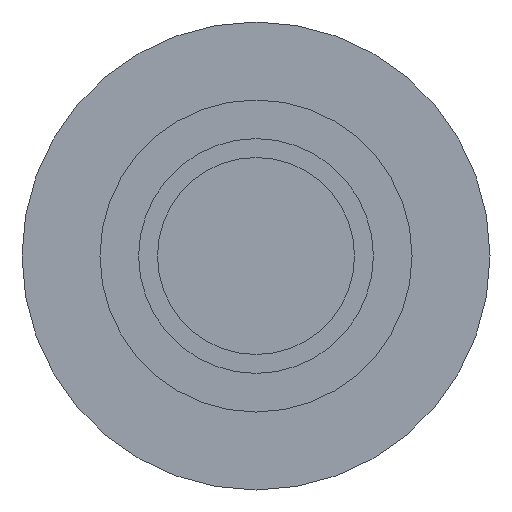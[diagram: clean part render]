
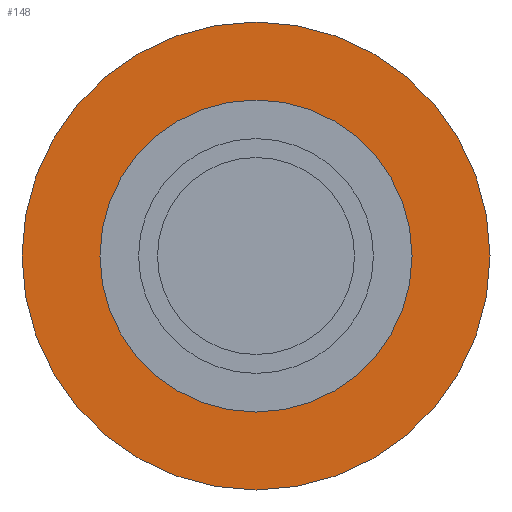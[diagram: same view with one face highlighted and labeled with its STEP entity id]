
A CAD part, left-side view. The second image highlights one B-rep face of the part: STEP entity #148.
In plain terms, the highlighted planar face has unit normal (-1, 0, 0).
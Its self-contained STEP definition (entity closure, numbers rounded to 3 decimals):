
#31 = CYLINDRICAL_SURFACE('',#32,4.);
#32 = AXIS2_PLACEMENT_3D('',#33,#34,#35);
#33 = CARTESIAN_POINT('',(25.,0.,0.));
#34 = DIRECTION('',(-1.,-0.,-0.));
#35 = DIRECTION('',(0.,1.,0.));
#56 = VERTEX_POINT('',#57);
#57 = CARTESIAN_POINT('',(35.1,4.,0.));
#78 = EDGE_CURVE('',#56,#56,#79,.T.);
#79 = SURFACE_CURVE('',#80,(#85,#92),.PCURVE_S1.);
#80 = CIRCLE('',#81,4.);
#81 = AXIS2_PLACEMENT_3D('',#82,#83,#84);
#82 = CARTESIAN_POINT('',(35.1,0.,0.));
#83 = DIRECTION('',(-1.,0.,0.));
#84 = DIRECTION('',(0.,1.,0.));
#85 = PCURVE('',#31,#86);
#86 = DEFINITIONAL_REPRESENTATION('',(#87),#91);
#87 = LINE('',#88,#89);
#88 = CARTESIAN_POINT('',(-6.283,-10.1));
#89 = VECTOR('',#90,1.);
#90 = DIRECTION('',(1.,-0.));
#91 = ( GEOMETRIC_REPRESENTATION_CONTEXT(2) 
PARAMETRIC_REPRESENTATION_CONTEXT() REPRESENTATION_CONTEXT('2D SPACE',''
  ) );
#92 = PCURVE('',#93,#98);
#93 = PLANE('',#94);
#94 = AXIS2_PLACEMENT_3D('',#95,#96,#97);
#95 = CARTESIAN_POINT('',(35.1,0.,0.));
#96 = DIRECTION('',(1.,0.,0.));
#97 = DIRECTION('',(-0.,0.,1.));
#98 = DEFINITIONAL_REPRESENTATION('',(#99),#107);
#99 = ( BOUNDED_CURVE() B_SPLINE_CURVE(2,(#100,#101,#102,#103,#104,#105,
#106),.UNSPECIFIED.,.T.,.F.) B_SPLINE_CURVE_WITH_KNOTS((1,2,2,2,2,1),(
    -2.094,0.,2.094,4.189,6.283,
8.378),.UNSPECIFIED.) CURVE() GEOMETRIC_REPRESENTATION_ITEM() 
RATIONAL_B_SPLINE_CURVE((1.,0.5,1.,0.5,1.,0.5,1.)) REPRESENTATION_ITEM(
  '') );
#100 = CARTESIAN_POINT('',(0.,-4.));
#101 = CARTESIAN_POINT('',(-6.928,-4.));
#102 = CARTESIAN_POINT('',(-3.464,2.));
#103 = CARTESIAN_POINT('',(0.,8.));
#104 = CARTESIAN_POINT('',(3.464,2.));
#105 = CARTESIAN_POINT('',(6.928,-4.));
#106 = CARTESIAN_POINT('',(0.,-4.));
#107 = ( GEOMETRIC_REPRESENTATION_CONTEXT(2) 
PARAMETRIC_REPRESENTATION_CONTEXT() REPRESENTATION_CONTEXT('2D SPACE',''
  ) );
#148 = ADVANCED_FACE('',(#149,#180),#93,.F.);
#149 = FACE_BOUND('',#150,.F.);
#150 = EDGE_LOOP('',(#151));
#151 = ORIENTED_EDGE('',*,*,#152,.T.);
#152 = EDGE_CURVE('',#153,#153,#155,.T.);
#153 = VERTEX_POINT('',#154);
#154 = CARTESIAN_POINT('',(35.1,6.,0.));
#155 = SURFACE_CURVE('',#156,(#161,#168),.PCURVE_S1.);
#156 = CIRCLE('',#157,6.);
#157 = AXIS2_PLACEMENT_3D('',#158,#159,#160);
#158 = CARTESIAN_POINT('',(35.1,0.,0.));
#159 = DIRECTION('',(1.,0.,0.));
#160 = DIRECTION('',(0.,1.,0.));
#161 = PCURVE('',#93,#162);
#162 = DEFINITIONAL_REPRESENTATION('',(#163),#167);
#163 = CIRCLE('',#164,6.);
#164 = AXIS2_PLACEMENT_2D('',#165,#166);
#165 = CARTESIAN_POINT('',(0.,0.));
#166 = DIRECTION('',(0.,-1.));
#167 = ( GEOMETRIC_REPRESENTATION_CONTEXT(2) 
PARAMETRIC_REPRESENTATION_CONTEXT() REPRESENTATION_CONTEXT('2D SPACE',''
  ) );
#168 = PCURVE('',#169,#174);
#169 = CYLINDRICAL_SURFACE('',#170,6.);
#170 = AXIS2_PLACEMENT_3D('',#171,#172,#173);
#171 = CARTESIAN_POINT('',(35.1,0.,0.));
#172 = DIRECTION('',(-1.,-0.,-0.));
#173 = DIRECTION('',(0.,1.,0.));
#174 = DEFINITIONAL_REPRESENTATION('',(#175),#179);
#175 = LINE('',#176,#177);
#176 = CARTESIAN_POINT('',(-0.,0.));
#177 = VECTOR('',#178,1.);
#178 = DIRECTION('',(-1.,0.));
#179 = ( GEOMETRIC_REPRESENTATION_CONTEXT(2) 
PARAMETRIC_REPRESENTATION_CONTEXT() REPRESENTATION_CONTEXT('2D SPACE',''
  ) );
#180 = FACE_BOUND('',#181,.F.);
#181 = EDGE_LOOP('',(#182));
#182 = ORIENTED_EDGE('',*,*,#78,.T.);
